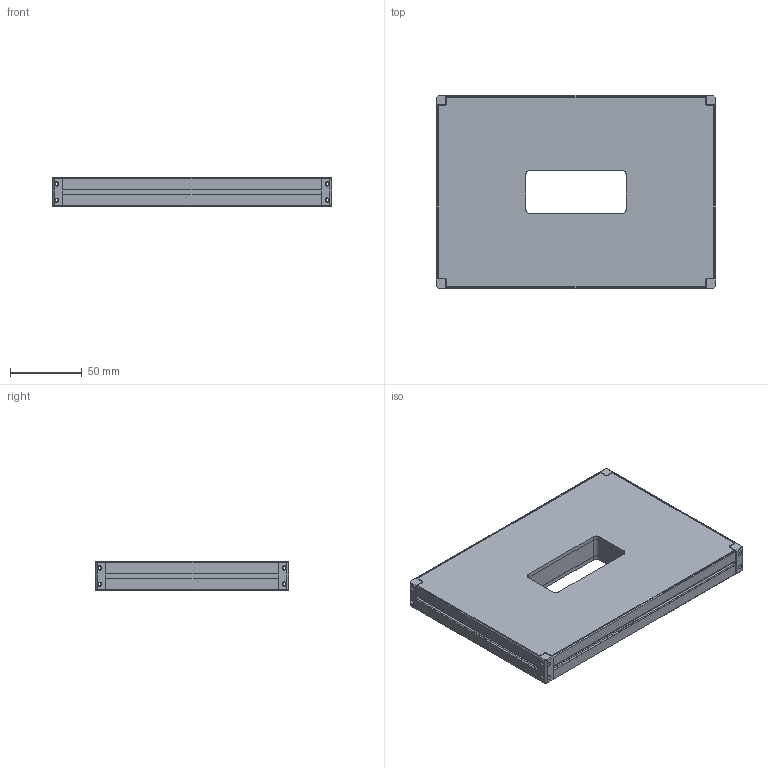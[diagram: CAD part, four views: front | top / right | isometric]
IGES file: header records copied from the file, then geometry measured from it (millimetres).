
Start section: SolidWorks IGES file using analytic representation for surfaces
Global section: file name: E:\SynologyDrive\新款图纸\标准产品\开孔面光\F180120-70X30\ED\F180120-70X30.IGS; native system: SolidWorks 2021; preprocessor: SolidWorks 2021; author: Administrator; date: 220221.194130; units: millimetre
Bounding box: 195 x 135 x 20.1 mm (x, y, z)
Surface area: 156838.2 mm2 (no closed solid volume)
Topology: 0 solids, 0 shells, 422 faces, 5788 edges, 5788 vertices
Faces by surface type: bspline 258, revolution 164
